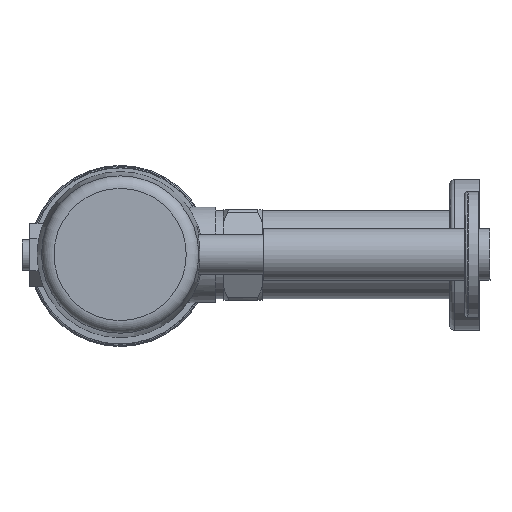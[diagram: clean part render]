
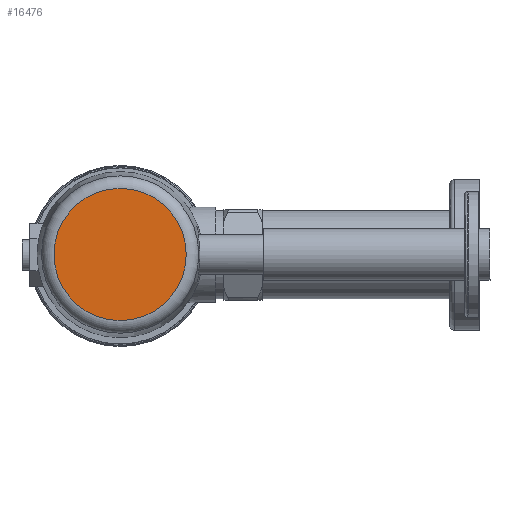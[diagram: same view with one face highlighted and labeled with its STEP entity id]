
A CAD part, top view. The second image highlights one B-rep face of the part: STEP entity #16476.
In plain terms, the highlighted planar face has unit normal (0, 0, 1) as drawn and (0, 1, 0) by its records, which use the part's own axes.
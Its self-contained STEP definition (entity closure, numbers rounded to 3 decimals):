
#1072=CIRCLE('',#18107,26.278);
#1077=CIRCLE('',#18112,26.278);
#1965=FACE_OUTER_BOUND('',#2818,.T.);
#2818=EDGE_LOOP('',(#14168,#14169));
#7615=VERTEX_POINT('',#27374);
#7616=VERTEX_POINT('',#27375);
#9878=EDGE_CURVE('',#7615,#7616,#1072,.T.);
#9883=EDGE_CURVE('',#7616,#7615,#1077,.T.);
#14168=ORIENTED_EDGE('',*,*,#9878,.F.);
#14169=ORIENTED_EDGE('',*,*,#9883,.F.);
#15749=PLANE('',#18114);
#16476=ADVANCED_FACE('',(#1965),#15749,.T.);
#18107=AXIS2_PLACEMENT_3D('',#27376,#22161,#22162);
#18112=AXIS2_PLACEMENT_3D('',#27384,#22171,#22172);
#18114=AXIS2_PLACEMENT_3D('',#27388,#22177,#22178);
#22161=DIRECTION('center_axis',(0.,-1.,0.));
#22162=DIRECTION('ref_axis',(1.,0.,0.));
#22171=DIRECTION('center_axis',(0.,-1.,0.));
#22172=DIRECTION('ref_axis',(1.,0.,0.));
#22177=DIRECTION('center_axis',(0.,1.,0.));
#22178=DIRECTION('ref_axis',(0.,0.,1.));
#27374=CARTESIAN_POINT('',(185.03,183.074,0.));
#27375=CARTESIAN_POINT('',(211.307,183.074,-26.278));
#27376=CARTESIAN_POINT('Origin',(211.307,183.074,0.));
#27384=CARTESIAN_POINT('Origin',(211.307,183.074,0.));
#27388=CARTESIAN_POINT('Origin',(195.807,183.074,0.));
